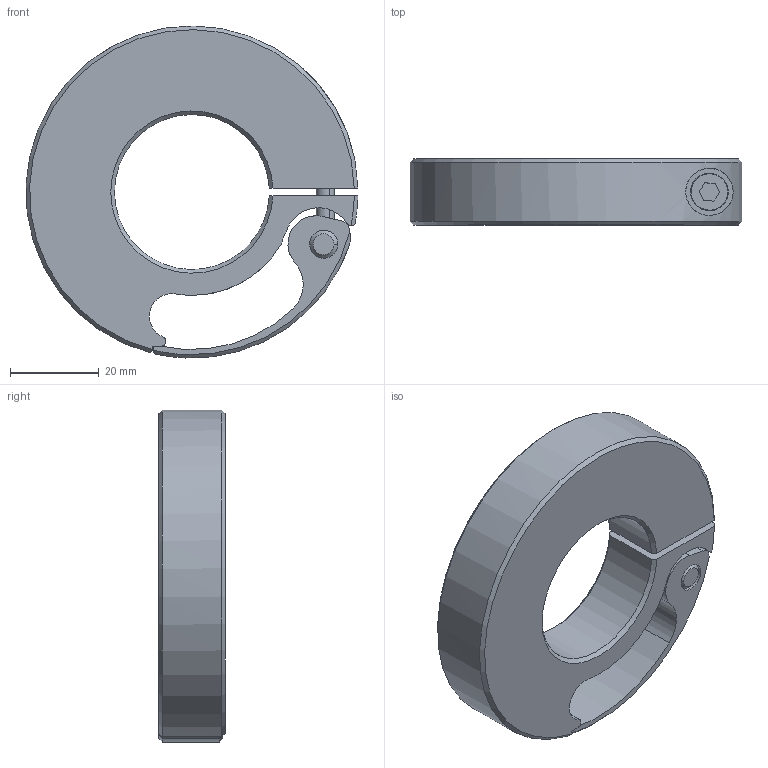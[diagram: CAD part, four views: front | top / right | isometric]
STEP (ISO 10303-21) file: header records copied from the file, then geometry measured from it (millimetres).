
FILE_DESCRIPTION((''),'2;1');
FILE_NAME('MQCL-35-A','2016-09-09T',('SYSTEM'),(''),'PRO/ENGINEER BY PARAMETRIC TECHNOLOGY CORPORATION, 2015110','PRO/ENGINEER BY PARAMETRIC TECHNOLOGY CORPORATION, 2015110','');
FILE_SCHEMA(('AUTOMOTIVE_DESIGN { 1 0 10303 214 1 1 1 1 }'));
Length unit declared in the file: inch
Products named in the file (1): MQCL-35-A
Bounding box: 74.96 x 15 x 74.98 mm (x, y, z)
Volume: 42266.9 mm3; surface area: 14818.7 mm2
Topology: 1 solids, 1 shells, 89 faces, 245 edges, 163 vertices
Faces by surface type: cylinder 46, plane 27, cone 16
Entity records: 3753 total; most frequent: CARTESIAN_POINT 758, DIRECTION 490, ORIENTED_EDGE 490, EDGE_CURVE 245, AXIS2_PLACEMENT_3D 195, VERTEX_POINT 163, CIRCLE 106, EDGE_LOOP 102
